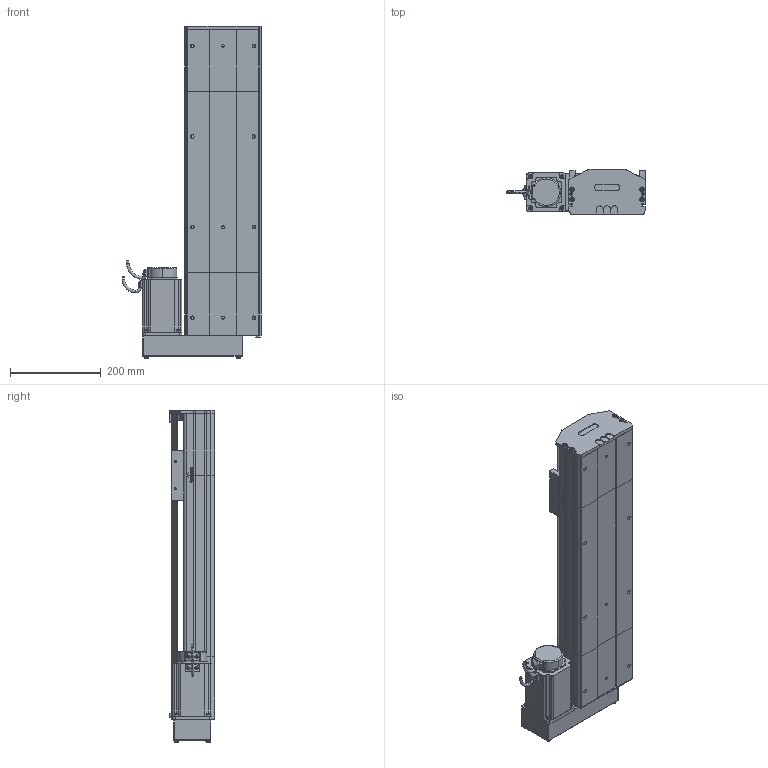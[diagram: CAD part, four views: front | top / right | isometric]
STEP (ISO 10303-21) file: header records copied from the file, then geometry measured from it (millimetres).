
FILE_DESCRIPTION (( 'STEP AP214' ), '1' );
FILE_NAME ('D17 TSN BR S400.STEP', '2010-06-30T07:31:06', ( 'Christophe Gaillard' ), ( 'SGA' ), 'SwSTEP 2.0', 'SolidWorks 2010', '' );
FILE_SCHEMA (( 'AUTOMOTIVE_DESIGN' ));
Length unit declared in the file: millimetre
Products named in the file (33): vis M5 L12_Default; renvoi BR_Default; tete d''axe bas D17; plaque de  bout tail D17_Default; Vis M5 L16-2_Default; Conecteur_Default; tete d''axe haut D17; Conecteur2_Default; codeur 90BLDC125-640; Arbre+rail tail D17; corps 90BLDC125A-640; vis M5 L8 90°_Default; couvercle D17_Default; vis M5 L5_Default; head BR_Default; vis M5 L25_Default; avant 90BLDC125A-640; Moteur motionking 90BLDC125A-640; corpl head D17 BM_Default; Arbre+rail head D17; plaque de  bout BM head D17_Default; couvercle D17 head_Default; chariot D17 TSN; Chariot D17 TBN; guide D17; D17 TSN BR S400; Cvis M5 L70_Default; corp D17 400_Default; arbre + rail D17 Course 400 ; course 400 D17_Default; corpl tail D17_Default; Tail D17_Default; couvercle D17 course L400_Default
Assembly tree (51 placements, depth 4):
  D17 TSN BR S400
    Tail D17_Default
      vis M5 L8 90°_Default  x2
      vis M5 L25_Default  x2
      vis M5 L12_Default  x4
      tete d''axe haut D17
      couvercle D17_Default
      Arbre+rail tail D17
      plaque de  bout tail D17_Default
      corpl tail D17_Default
      tete d''axe bas D17
    chariot D17 TSN
      guide D17  x2
      Chariot D17 TBN
    head BR_Default
      Vis M5 L16-2_Default  x4
      renvoi BR_Default
      vis M5 L12_Default  x8
      couvercle D17 head_Default
      Arbre+rail head D17
      Cvis M5 L70_Default  x2
      vis M5 L5_Default  x2
      plaque de  bout BM head D17_Default
      corpl head D17 BM_Default
      Moteur motionking 90BLDC125A-640
        codeur 90BLDC125-640
        corps 90BLDC125A-640
        Conecteur_Default
        avant 90BLDC125A-640
        Conecteur2_Default
    course 400 D17_Default
      couvercle D17 course L400_Default
      arbre + rail D17 Course 400 
      corp D17 400_Default
Bounding box: 308.95 x 99.7 x 732.7 mm (x, y, z)
Volume: 5526653.5 mm3; surface area: 1360780.4 mm2
Topology: 75 solids, 75 shells, 2103 faces, 5301 edges, 3428 vertices
Faces by surface type: plane 1322, cylinder 520, bspline 136, torus 65, cone 56, sphere 4
Entity records: 70246 total; most frequent: CARTESIAN_POINT 22320, ORIENTED_EDGE 8510, DIRECTION 7940, EDGE_CURVE 4255, LINE 2992, VECTOR 2992, VERTEX_POINT 2794, AXIS2_PLACEMENT_3D 2474
